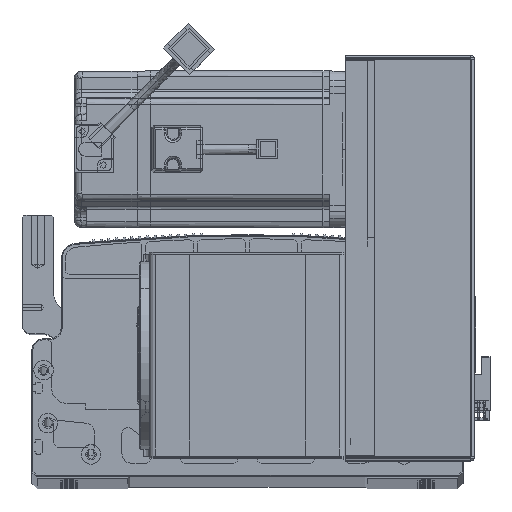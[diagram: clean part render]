
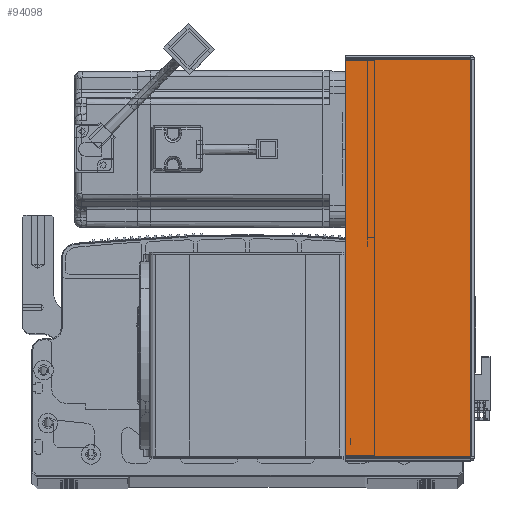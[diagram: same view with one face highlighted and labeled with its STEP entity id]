
A CAD part, top view. The second image highlights one B-rep face of the part: STEP entity #94098.
In plain terms, the highlighted planar face has unit normal (0, 0, 1) as drawn and (0, -1, 0) by its records, which use the part's own axes.
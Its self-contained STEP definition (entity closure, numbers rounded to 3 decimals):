
#338 = VECTOR ( 'NONE', #17304, 1000. ) ;
#1506 = CARTESIAN_POINT ( 'NONE',  ( 0., -1.5, 0. ) ) ;
#1725 = VECTOR ( 'NONE', #89342, 1000. ) ;
#8296 = DIRECTION ( 'NONE',  ( 0., 1., 0. ) ) ;
#9208 = EDGE_CURVE ( 'NONE', #40432, #18637, #41651, .T. ) ;
#11082 = CARTESIAN_POINT ( 'NONE',  ( 0., -1.5, -0.707 ) ) ;
#17304 = DIRECTION ( 'NONE',  ( 0., 0., 1. ) ) ;
#18085 = LINE ( 'NONE', #36128, #78743 ) ;
#18637 = VERTEX_POINT ( 'NONE', #19191 ) ;
#19191 = CARTESIAN_POINT ( 'NONE',  ( 0.737, -1.5, -0.707 ) ) ;
#20173 = DIRECTION ( 'NONE',  ( 0., 0., 1. ) ) ;
#29180 = EDGE_CURVE ( 'NONE', #98231, #76464, #18085, .T. ) ;
#36128 = CARTESIAN_POINT ( 'NONE',  ( 64.5, -1.5, 0. ) ) ;
#36763 = AXIS2_PLACEMENT_3D ( 'NONE', #1506, #8296, #86328 ) ;
#38545 = ORIENTED_EDGE ( 'NONE', *, *, #98117, .F. ) ;
#40432 = VERTEX_POINT ( 'NONE', #43238 ) ;
#41651 = LINE ( 'NONE', #48248, #338 ) ;
#43238 = CARTESIAN_POINT ( 'NONE',  ( 0.737, -1.5, -203.293 ) ) ;
#48248 = CARTESIAN_POINT ( 'NONE',  ( 0.737, -1.5, 0. ) ) ;
#50687 = EDGE_LOOP ( 'NONE', ( #56155, #92294, #99663, #38545 ) ) ;
#54459 = PLANE ( 'NONE',  #36763 ) ;
#56155 = ORIENTED_EDGE ( 'NONE', *, *, #9208, .F. ) ;
#57796 = CARTESIAN_POINT ( 'NONE',  ( 0., -1.5, -203.293 ) ) ;
#58154 = EDGE_CURVE ( 'NONE', #40432, #98231, #91581, .T. ) ;
#58259 = LINE ( 'NONE', #11082, #76414 ) ;
#64910 = FACE_OUTER_BOUND ( 'NONE', #50687, .T. ) ;
#76414 = VECTOR ( 'NONE', #81658, 1000. ) ;
#76464 = VERTEX_POINT ( 'NONE', #82756 ) ;
#78743 = VECTOR ( 'NONE', #20173, 1000. ) ;
#81658 = DIRECTION ( 'NONE',  ( 1., 0., 0. ) ) ;
#82756 = CARTESIAN_POINT ( 'NONE',  ( 64.5, -1.5, -0.707 ) ) ;
#86328 = DIRECTION ( 'NONE',  ( -1., 0., 0. ) ) ;
#89342 = DIRECTION ( 'NONE',  ( 1., 0., 0. ) ) ;
#91150 = CARTESIAN_POINT ( 'NONE',  ( 64.5, -1.5, -203.293 ) ) ;
#91581 = LINE ( 'NONE', #57796, #1725 ) ;
#92294 = ORIENTED_EDGE ( 'NONE', *, *, #58154, .T. ) ;
#94098 = ADVANCED_FACE ( 'NONE', ( #64910 ), #54459, .F. ) ;
#98117 = EDGE_CURVE ( 'NONE', #18637, #76464, #58259, .T. ) ;
#98231 = VERTEX_POINT ( 'NONE', #91150 ) ;
#99663 = ORIENTED_EDGE ( 'NONE', *, *, #29180, .T. ) ;
